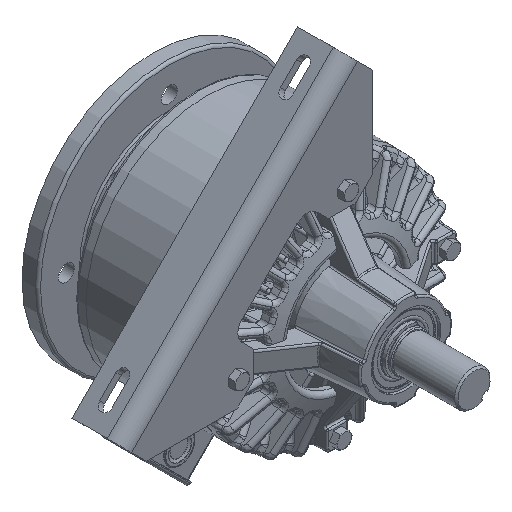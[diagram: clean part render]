
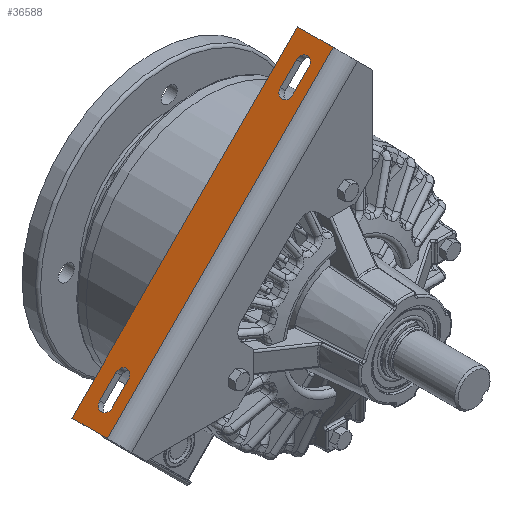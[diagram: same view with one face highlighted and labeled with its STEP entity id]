
A CAD part, isometric view. The second image highlights one B-rep face of the part: STEP entity #36588.
In plain terms, the highlighted planar face has unit normal (-0.707, 0, 0.707).
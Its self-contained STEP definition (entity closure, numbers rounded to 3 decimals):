
#208=FACE_BOUND('',#7839,.T.);
#209=FACE_BOUND('',#7840,.T.);
#1337=PLANE('',#40238);
#5429=FACE_OUTER_BOUND('',#7838,.T.);
#7838=EDGE_LOOP('',(#30173,#30174,#30175,#30176));
#7839=EDGE_LOOP('',(#30177,#30178,#30179,#30180));
#7840=EDGE_LOOP('',(#30181,#30182,#30183,#30184));
#9868=LINE('',#76290,#11335);
#9870=LINE('',#76298,#11337);
#9871=LINE('',#76300,#11338);
#9872=LINE('',#76301,#11339);
#9873=LINE('',#76306,#11340);
#9874=LINE('',#76309,#11341);
#9875=LINE('',#76314,#11342);
#9876=LINE('',#76317,#11343);
#11335=VECTOR('',#48067,39.37);
#11337=VECTOR('',#48077,39.37);
#11338=VECTOR('',#48078,39.37);
#11339=VECTOR('',#48079,39.37);
#11340=VECTOR('',#48082,39.37);
#11341=VECTOR('',#48085,39.37);
#11342=VECTOR('',#48088,39.37);
#11343=VECTOR('',#48091,39.37);
#13422=CIRCLE('',#40239,0.219);
#13423=CIRCLE('',#40240,0.219);
#13424=CIRCLE('',#40241,0.219);
#13425=CIRCLE('',#40242,0.219);
#16472=VERTEX_POINT('',#76285);
#16473=VERTEX_POINT('',#76289);
#16475=VERTEX_POINT('',#76297);
#16476=VERTEX_POINT('',#76299);
#16477=VERTEX_POINT('',#76302);
#16478=VERTEX_POINT('',#76303);
#16479=VERTEX_POINT('',#76305);
#16480=VERTEX_POINT('',#76307);
#16481=VERTEX_POINT('',#76310);
#16482=VERTEX_POINT('',#76311);
#16483=VERTEX_POINT('',#76313);
#16484=VERTEX_POINT('',#76315);
#21231=EDGE_CURVE('',#16472,#16473,#9868,.T.);
#21235=EDGE_CURVE('',#16472,#16475,#9870,.T.);
#21236=EDGE_CURVE('',#16475,#16476,#9871,.T.);
#21237=EDGE_CURVE('',#16473,#16476,#9872,.T.);
#21238=EDGE_CURVE('',#16477,#16478,#13422,.T.);
#21239=EDGE_CURVE('',#16478,#16479,#9873,.T.);
#21240=EDGE_CURVE('',#16479,#16480,#13423,.T.);
#21241=EDGE_CURVE('',#16480,#16477,#9874,.T.);
#21242=EDGE_CURVE('',#16481,#16482,#13424,.T.);
#21243=EDGE_CURVE('',#16483,#16481,#9875,.T.);
#21244=EDGE_CURVE('',#16484,#16483,#13425,.T.);
#21245=EDGE_CURVE('',#16482,#16484,#9876,.T.);
#30173=ORIENTED_EDGE('',*,*,#21231,.F.);
#30174=ORIENTED_EDGE('',*,*,#21235,.T.);
#30175=ORIENTED_EDGE('',*,*,#21236,.T.);
#30176=ORIENTED_EDGE('',*,*,#21237,.F.);
#30177=ORIENTED_EDGE('',*,*,#21238,.T.);
#30178=ORIENTED_EDGE('',*,*,#21239,.T.);
#30179=ORIENTED_EDGE('',*,*,#21240,.T.);
#30180=ORIENTED_EDGE('',*,*,#21241,.T.);
#30181=ORIENTED_EDGE('',*,*,#21242,.F.);
#30182=ORIENTED_EDGE('',*,*,#21243,.F.);
#30183=ORIENTED_EDGE('',*,*,#21244,.F.);
#30184=ORIENTED_EDGE('',*,*,#21245,.F.);
#36588=ADVANCED_FACE('',(#5429,#208,#209),#1337,.F.);
#40238=AXIS2_PLACEMENT_3D('',#76296,#48075,#48076);
#40239=AXIS2_PLACEMENT_3D('',#76304,#48080,#48081);
#40240=AXIS2_PLACEMENT_3D('',#76308,#48083,#48084);
#40241=AXIS2_PLACEMENT_3D('',#76312,#48086,#48087);
#40242=AXIS2_PLACEMENT_3D('',#76316,#48089,#48090);
#48067=DIRECTION('',(-0.707,0.,-0.707));
#48075=DIRECTION('center_axis',(0.707,0.,-0.707));
#48076=DIRECTION('ref_axis',(0.,1.,0.));
#48077=DIRECTION('',(0.,1.,0.));
#48078=DIRECTION('',(-0.707,0.,-0.707));
#48079=DIRECTION('',(0.,1.,0.));
#48080=DIRECTION('center_axis',(0.707,0.,-0.707));
#48081=DIRECTION('ref_axis',(0.,1.,0.));
#48082=DIRECTION('',(0.707,0.,0.707));
#48083=DIRECTION('center_axis',(0.707,0.,-0.707));
#48084=DIRECTION('ref_axis',(0.,1.,0.));
#48085=DIRECTION('',(-0.707,0.,-0.707));
#48086=DIRECTION('center_axis',(-0.707,0.,
0.707));
#48087=DIRECTION('ref_axis',(0.,1.,0.));
#48088=DIRECTION('',(0.707,0.,0.707));
#48089=DIRECTION('center_axis',(-0.707,0.,
0.707));
#48090=DIRECTION('ref_axis',(0.,1.,0.));
#48091=DIRECTION('',(-0.707,0.,-0.707));
#76285=CARTESIAN_POINT('',(0.088,-0.748,7.866));
#76289=CARTESIAN_POINT('',(-7.867,-0.748,-0.089));
#76290=CARTESIAN_POINT('',(-3.889,-0.748,3.889));
#76296=CARTESIAN_POINT('Origin',(-3.889,-0.998,3.889));
#76297=CARTESIAN_POINT('',(0.088,0.502,7.866));
#76298=CARTESIAN_POINT('',(0.088,-0.998,7.866));
#76299=CARTESIAN_POINT('',(-7.867,0.502,-0.089));
#76300=CARTESIAN_POINT('',(-3.889,0.502,3.889));
#76301=CARTESIAN_POINT('',(-7.867,-0.998,-0.089));
#76302=CARTESIAN_POINT('',(-7.359,-0.407,0.419));
#76303=CARTESIAN_POINT('',(-7.359,0.03,0.419));
#76304=CARTESIAN_POINT('Origin',(-7.359,-0.188,0.419));
#76305=CARTESIAN_POINT('',(-6.784,0.03,0.994));
#76306=CARTESIAN_POINT('',(-7.359,0.03,0.419));
#76307=CARTESIAN_POINT('',(-6.784,-0.407,0.994));
#76308=CARTESIAN_POINT('Origin',(-6.784,-0.188,0.994));
#76309=CARTESIAN_POINT('',(-7.359,-0.407,0.419));
#76310=CARTESIAN_POINT('',(-0.42,-0.407,7.358));
#76311=CARTESIAN_POINT('',(-0.42,0.03,7.358));
#76312=CARTESIAN_POINT('Origin',(-0.42,-0.188,
7.358));
#76313=CARTESIAN_POINT('',(-0.995,-0.407,6.783));
#76314=CARTESIAN_POINT('',(-0.42,-0.407,7.358));
#76315=CARTESIAN_POINT('',(-0.995,0.03,6.783));
#76316=CARTESIAN_POINT('Origin',(-0.995,-0.188,6.783));
#76317=CARTESIAN_POINT('',(-0.42,0.03,7.358));
